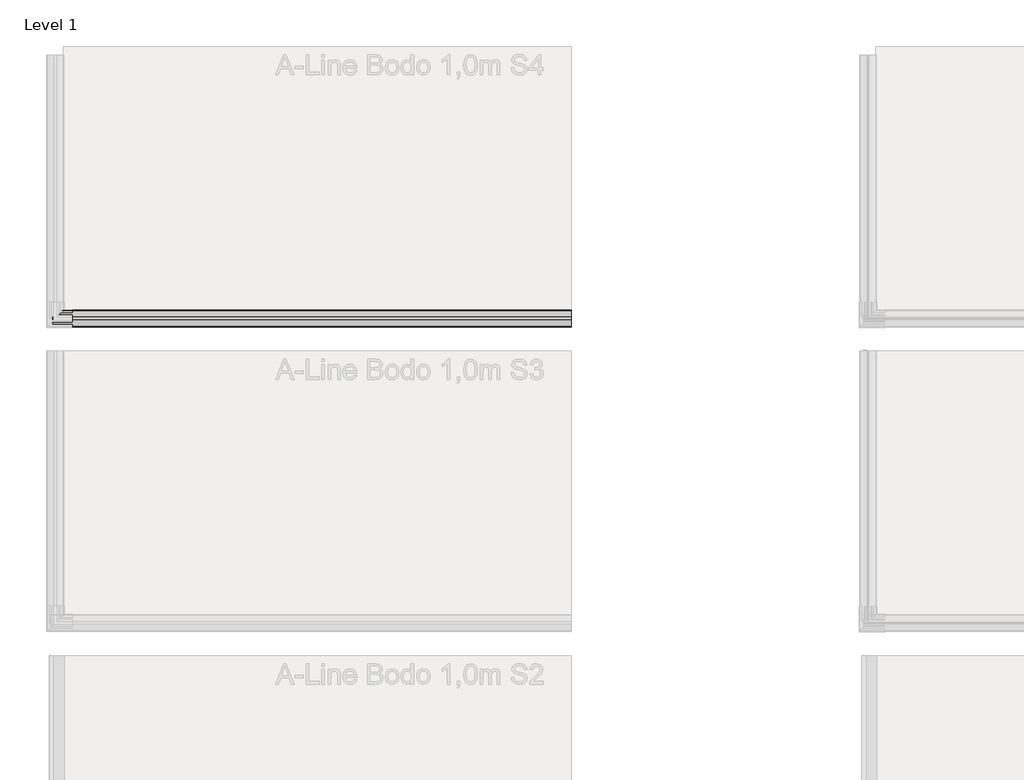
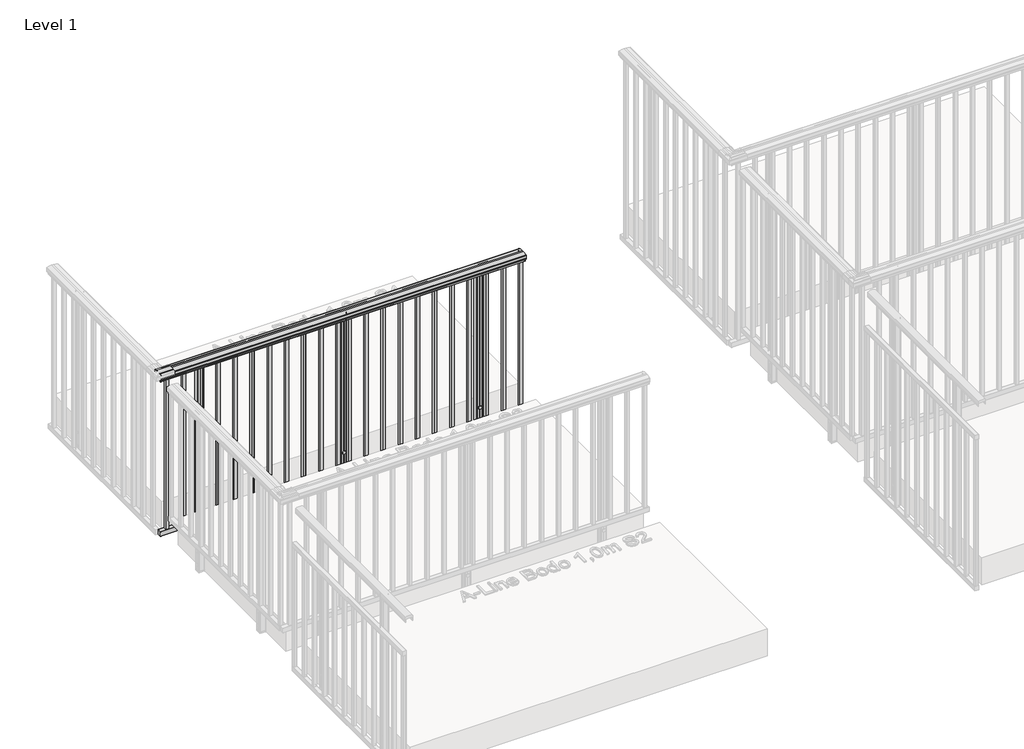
# One storey, part 11 of 66: 1 railing.
"""IFC4 building model written with IfcOpenShell, lengths in millimetres."""

from ifc_helpers import new_model, si_unit, point, frame, frame_2d, origin, place, context, project, spatial, polyline, circle_curve, trimmed, segment, composite_curve, outline, extrude, element, save

model = new_model("IFC4")

# Units and contexts
model_context = context("Model", 3, world=origin())
ifc_project = project(units=[si_unit("LENGTHUNIT", "METRE", prefix="MILLI")], contexts=[model_context])

# Site, building, storey
site = spatial("IfcSite", under=ifc_project)
building = spatial("IfcBuilding", under=site)
storey = spatial("IfcBuildingStorey", under=building, Name="Level 1", Elevation=0.0)

# Railing
placement = place(None, origin())
element("IfcRailing", 1, ObjectType="A-Line Bodo 1,0m S4", at=placement, inside=storey, context=model_context, shape_type="SweptSolid", body=[
    extrude(outline(composite_curve([segment(polyline([(-13150.7565959, 970.6825033), (-13150.7565959, 991.2139911)]), True, "CONTINUOUS"), segment(trimmed(circle_curve(frame_2d((-13147.7565959, 991.2139911)), 3.0), [point((-13150.7565959, 991.2139911))], [point((-13148.8230873, 994.0180233))], False, "CARTESIAN"), True, "CONTINUOUS"), segment(trimmed(circle_curve(frame_2d((-13116.2565959, 908.3938053)), 91.6083133), [point((-13148.8230873, 994.0180233))], [point((-13116.2565959, 1000.0021186))], False, "CARTESIAN"), True, "CONTINUOUS"), segment(polyline([(-13116.2565959, 1000.0021186), (-13103.2565959, 1000.0021186)]), True, "CONTINUOUS"), segment(trimmed(circle_curve(frame_2d((-13103.2565959, 908.3938053)), 91.6083133), [point((-13103.2565959, 1000.0021186))], [point((-13070.6901046, 994.0180233))], False, "CARTESIAN"), True, "CONTINUOUS"), segment(trimmed(circle_curve(frame_2d((-13071.7565959, 991.2139911)), 3.0), [point((-13070.6901046, 994.0180233))], [point((-13068.7565959, 991.2139911))], False, "CARTESIAN"), True, "CONTINUOUS"), segment(polyline([(-13068.7565959, 991.2139911), (-13068.7967883, 970.5325033), (-13069.4115714, 969.9177203), (-13068.7565959, 969.2627449), (-13068.7565959, 965.5021186)]), True, "CONTINUOUS"), segment(trimmed(circle_curve(frame_2d((-13069.2565959, 965.5021186)), 0.5), [point((-13068.7565959, 965.5021186))], [point((-13069.2565959, 965.0021186))], False, "CARTESIAN"), True, "CONTINUOUS"), segment(polyline([(-13069.2565959, 965.0021186), (-13070.2565959, 965.0021186), (-13070.2565959, 979.5021186)]), True, "CONTINUOUS"), segment(trimmed(circle_curve(frame_2d((-13070.7565959, 979.5021186)), 0.5), [point((-13070.2565959, 979.5021186))], [point((-13070.7565959, 980.0021186))], True, "CARTESIAN"), True, "CONTINUOUS"), segment(polyline([(-13070.7565959, 980.0021186), (-13148.7565959, 980.0021186)]), True, "CONTINUOUS"), segment(trimmed(circle_curve(frame_2d((-13148.7565959, 979.5021186)), 0.5), [point((-13148.7565959, 980.0021186))], [point((-13149.2565959, 979.5021186))], True, "CARTESIAN"), True, "CONTINUOUS"), segment(polyline([(-13149.2565959, 979.5021186), (-13149.2565959, 965.0021186), (-13150.2565959, 965.0021186)]), True, "CONTINUOUS"), segment(trimmed(circle_curve(frame_2d((-13150.2565959, 965.5021186)), 0.5), [point((-13150.2565959, 965.0021186))], [point((-13150.7565959, 965.5021186))], False, "CARTESIAN"), True, "CONTINUOUS"), segment(polyline([(-13150.7565959, 965.5021186), (-13150.7164036, 969.4717338), (-13150.131115, 970.0570224), (-13150.7565959, 970.6825033)]), True, "CONTINUOUS")], self_intersect=False)), frame((4454.0547322, 0.0, 0.0), z_axis=(1.0, 0.0, 0.0), x_axis=(0.0, 1.0, 0.0)), (0.0, 0.0, 1.0), 2550.0),
    extrude(outline(composite_curve([segment(trimmed(circle_curve(frame_2d((-13139.305892, 977.0)), 1.0), [point((-13140.305892, 977.0))], [point((-13139.305892, 978.0))], False, "CARTESIAN"), True, "CONTINUOUS"), segment(polyline([(-13139.305892, 978.0), (-13112.205892, 978.0)]), True, "CONTINUOUS"), segment(trimmed(circle_curve(frame_2d((-13112.205892, 977.0)), 1.0), [point((-13112.205892, 978.0))], [point((-13111.205892, 977.0))], False, "CARTESIAN"), True, "CONTINUOUS"), segment(polyline([(-13111.205892, 977.0), (-13111.205892, 944.8)]), True, "CONTINUOUS"), segment(trimmed(circle_curve(frame_2d((-13112.205892, 944.8)), 1.0), [point((-13111.205892, 944.8))], [point((-13112.205892, 943.8))], False, "CARTESIAN"), True, "CONTINUOUS"), segment(polyline([(-13112.205892, 943.8), (-13139.305892, 943.8)]), True, "CONTINUOUS"), segment(trimmed(circle_curve(frame_2d((-13139.305892, 944.8)), 1.0), [point((-13139.305892, 943.8))], [point((-13140.305892, 944.8))], False, "CARTESIAN"), True, "CONTINUOUS"), segment(polyline([(-13140.305892, 944.8), (-13140.305892, 977.0)]), True, "CONTINUOUS")], self_intersect=False)), frame((4454.0547322, 0.0, 0.0), z_axis=(1.0, 0.0, 0.0), x_axis=(0.0, 1.0, 0.0)), (0.0, 0.0, 1.0), 2550.0),
    extrude(outline(composite_curve([segment(polyline([(-13139.305892, -165.8), (-13112.205892, -165.8)]), True, "CONTINUOUS"), segment(trimmed(circle_curve(frame_2d((-13112.205892, -166.8)), 1.0), [point((-13112.205892, -165.8))], [point((-13111.205892, -166.8))], False, "CARTESIAN"), True, "CONTINUOUS"), segment(polyline([(-13111.205892, -166.8), (-13111.205892, -199.0)]), True, "CONTINUOUS"), segment(trimmed(circle_curve(frame_2d((-13112.205892, -199.0)), 1.0), [point((-13111.205892, -199.0))], [point((-13112.205892, -200.0))], False, "CARTESIAN"), True, "CONTINUOUS"), segment(polyline([(-13112.205892, -200.0), (-13139.305892, -200.0)]), True, "CONTINUOUS"), segment(trimmed(circle_curve(frame_2d((-13139.305892, -199.0)), 1.0), [point((-13139.305892, -200.0))], [point((-13140.305892, -199.0))], False, "CARTESIAN"), True, "CONTINUOUS"), segment(polyline([(-13140.305892, -199.0), (-13140.305892, -166.8)]), True, "CONTINUOUS"), segment(trimmed(circle_curve(frame_2d((-13139.305892, -166.8)), 1.0), [point((-13140.305892, -166.8))], [point((-13139.305892, -165.8))], False, "CARTESIAN"), True, "CONTINUOUS")], self_intersect=False)), frame((4454.0547322, 0.0, 0.0), z_axis=(1.0, 0.0, 0.0), x_axis=(0.0, 1.0, 0.0)), (0.0, 0.0, 1.0), 2550.0),
    extrude(outline(polyline([(6969.0547322, -13135.755892), (6969.0547322, -13115.755892), (6989.0547322, -13115.755892), (6989.0547322, -13135.755892), (6969.0547322, -13135.755892)]), holes=[polyline([(6971.0547322, -13133.755892), (6987.0547322, -13133.755892), (6987.0547322, -13117.755892), (6971.0547322, -13117.755892), (6971.0547322, -13133.755892)])]), frame((0.0, 0.0, -166.0), z_axis=(0.0, 0.0, 1.0), x_axis=(1.0, 0.0, 0.0)), (0.0, 0.0, 1.0), 1110.0),
    extrude(outline(polyline([(6849.0547322, -13135.755892), (6849.0547322, -13115.755892), (6869.0547322, -13115.755892), (6869.0547322, -13135.755892), (6849.0547322, -13135.755892)]), holes=[polyline([(6851.0547322, -13133.755892), (6867.0547322, -13133.755892), (6867.0547322, -13117.755892), (6851.0547322, -13117.755892), (6851.0547322, -13133.755892)])]), frame((0.0, 0.0, -166.0), z_axis=(0.0, 0.0, 1.0), x_axis=(1.0, 0.0, 0.0)), (0.0, 0.0, 1.0), 1110.0),
    extrude(outline(polyline([(6729.0547322, -13135.755892), (6729.0547322, -13115.755892), (6749.0547322, -13115.755892), (6749.0547322, -13135.755892), (6729.0547322, -13135.755892)]), holes=[polyline([(6731.0547322, -13133.755892), (6747.0547322, -13133.755892), (6747.0547322, -13117.755892), (6731.0547322, -13117.755892), (6731.0547322, -13133.755892)])]), frame((0.0, 0.0, -166.0), z_axis=(0.0, 0.0, 1.0), x_axis=(1.0, 0.0, 0.0)), (0.0, 0.0, 1.0), 1110.0),
    extrude(outline(polyline([(6609.0547322, -13135.755892), (6609.0547322, -13115.755892), (6629.0547322, -13115.755892), (6629.0547322, -13135.755892), (6609.0547322, -13135.755892)]), holes=[polyline([(6611.0547322, -13133.755892), (6627.0547322, -13133.755892), (6627.0547322, -13117.755892), (6611.0547322, -13117.755892), (6611.0547322, -13133.755892)])]), frame((0.0, 0.0, -166.0), z_axis=(0.0, 0.0, 1.0), x_axis=(1.0, 0.0, 0.0)), (0.0, 0.0, 1.0), 1110.0),
    extrude(outline(polyline([(6489.0547322, -13135.755892), (6489.0547322, -13115.755892), (6509.0547322, -13115.755892), (6509.0547322, -13135.755892), (6489.0547322, -13135.755892)]), holes=[polyline([(6491.0547322, -13133.755892), (6507.0547322, -13133.755892), (6507.0547322, -13117.755892), (6491.0547322, -13117.755892), (6491.0547322, -13133.755892)])]), frame((0.0, 0.0, -166.0), z_axis=(0.0, 0.0, 1.0), x_axis=(1.0, 0.0, 0.0)), (0.0, 0.0, 1.0), 1110.0),
    extrude(outline(polyline([(6369.0547322, -13135.755892), (6369.0547322, -13115.755892), (6389.0547322, -13115.755892), (6389.0547322, -13135.755892), (6369.0547322, -13135.755892)]), holes=[polyline([(6371.0547322, -13133.755892), (6387.0547322, -13133.755892), (6387.0547322, -13117.755892), (6371.0547322, -13117.755892), (6371.0547322, -13133.755892)])]), frame((0.0, 0.0, -166.0), z_axis=(0.0, 0.0, 1.0), x_axis=(1.0, 0.0, 0.0)), (0.0, 0.0, 1.0), 1110.0),
    extrude(outline(polyline([(6249.0547322, -13135.755892), (6249.0547322, -13115.755892), (6269.0547322, -13115.755892), (6269.0547322, -13135.755892), (6249.0547322, -13135.755892)]), holes=[polyline([(6251.0547322, -13133.755892), (6267.0547322, -13133.755892), (6267.0547322, -13117.755892), (6251.0547322, -13117.755892), (6251.0547322, -13133.755892)])]), frame((0.0, 0.0, -166.0), z_axis=(0.0, 0.0, 1.0), x_axis=(1.0, 0.0, 0.0)), (0.0, 0.0, 1.0), 1110.0),
    extrude(outline(polyline([(6129.0547322, -13135.755892), (6129.0547322, -13115.755892), (6149.0547322, -13115.755892), (6149.0547322, -13135.755892), (6129.0547322, -13135.755892)]), holes=[polyline([(6131.0547322, -13133.755892), (6147.0547322, -13133.755892), (6147.0547322, -13117.755892), (6131.0547322, -13117.755892), (6131.0547322, -13133.755892)])]), frame((0.0, 0.0, -166.0), z_axis=(0.0, 0.0, 1.0), x_axis=(1.0, 0.0, 0.0)), (0.0, 0.0, 1.0), 1110.0),
    extrude(outline(polyline([(6009.0547322, -13135.755892), (6009.0547322, -13115.755892), (6029.0547322, -13115.755892), (6029.0547322, -13135.755892), (6009.0547322, -13135.755892)]), holes=[polyline([(6011.0547322, -13133.755892), (6027.0547322, -13133.755892), (6027.0547322, -13117.755892), (6011.0547322, -13117.755892), (6011.0547322, -13133.755892)])]), frame((0.0, 0.0, -166.0), z_axis=(0.0, 0.0, 1.0), x_axis=(1.0, 0.0, 0.0)), (0.0, 0.0, 1.0), 1110.0),
    extrude(outline(polyline([(5889.0547322, -13135.755892), (5889.0547322, -13115.755892), (5909.0547322, -13115.755892), (5909.0547322, -13135.755892), (5889.0547322, -13135.755892)]), holes=[polyline([(5891.0547322, -13133.755892), (5907.0547322, -13133.755892), (5907.0547322, -13117.755892), (5891.0547322, -13117.755892), (5891.0547322, -13133.755892)])]), frame((0.0, 0.0, -166.0), z_axis=(0.0, 0.0, 1.0), x_axis=(1.0, 0.0, 0.0)), (0.0, 0.0, 1.0), 1110.0),
    extrude(outline(polyline([(5769.0547322, -13135.755892), (5769.0547322, -13115.755892), (5789.0547322, -13115.755892), (5789.0547322, -13135.755892), (5769.0547322, -13135.755892)]), holes=[polyline([(5771.0547322, -13133.755892), (5787.0547322, -13133.755892), (5787.0547322, -13117.755892), (5771.0547322, -13117.755892), (5771.0547322, -13133.755892)])]), frame((0.0, 0.0, -166.0), z_axis=(0.0, 0.0, 1.0), x_axis=(1.0, 0.0, 0.0)), (0.0, 0.0, 1.0), 1110.0),
    extrude(outline(polyline([(5694.0547322, -13135.755892), (5694.0547322, -13115.755892), (5714.0547322, -13115.755892), (5714.0547322, -13135.755892), (5694.0547322, -13135.755892)]), holes=[polyline([(5696.0547322, -13133.755892), (5712.0547322, -13133.755892), (5712.0547322, -13117.755892), (5696.0547322, -13117.755892), (5696.0547322, -13133.755892)])]), frame((0.0, 0.0, -166.0), z_axis=(0.0, 0.0, 1.0), x_axis=(1.0, 0.0, 0.0)), (0.0, 0.0, 1.0), 1110.0),
    extrude(outline(polyline([(5574.0547322, -13135.755892), (5574.0547322, -13115.755892), (5594.0547322, -13115.755892), (5594.0547322, -13135.755892), (5574.0547322, -13135.755892)]), holes=[polyline([(5576.0547322, -13133.755892), (5592.0547322, -13133.755892), (5592.0547322, -13117.755892), (5576.0547322, -13117.755892), (5576.0547322, -13133.755892)])]), frame((0.0, 0.0, -166.0), z_axis=(0.0, 0.0, 1.0), x_axis=(1.0, 0.0, 0.0)), (0.0, 0.0, 1.0), 1110.0),
    extrude(outline(polyline([(5454.0547322, -13135.755892), (5454.0547322, -13115.755892), (5474.0547322, -13115.755892), (5474.0547322, -13135.755892), (5454.0547322, -13135.755892)]), holes=[polyline([(5456.0547322, -13133.755892), (5472.0547322, -13133.755892), (5472.0547322, -13117.755892), (5456.0547322, -13117.755892), (5456.0547322, -13133.755892)])]), frame((0.0, 0.0, -166.0), z_axis=(0.0, 0.0, 1.0), x_axis=(1.0, 0.0, 0.0)), (0.0, 0.0, 1.0), 1110.0),
    extrude(outline(polyline([(5334.0547322, -13135.755892), (5334.0547322, -13115.755892), (5354.0547322, -13115.755892), (5354.0547322, -13135.755892), (5334.0547322, -13135.755892)]), holes=[polyline([(5336.0547322, -13133.755892), (5352.0547322, -13133.755892), (5352.0547322, -13117.755892), (5336.0547322, -13117.755892), (5336.0547322, -13133.755892)])]), frame((0.0, 0.0, -166.0), z_axis=(0.0, 0.0, 1.0), x_axis=(1.0, 0.0, 0.0)), (0.0, 0.0, 1.0), 1110.0),
    extrude(outline(polyline([(5214.0547322, -13135.755892), (5214.0547322, -13115.755892), (5234.0547322, -13115.755892), (5234.0547322, -13135.755892), (5214.0547322, -13135.755892)]), holes=[polyline([(5216.0547322, -13133.755892), (5232.0547322, -13133.755892), (5232.0547322, -13117.755892), (5216.0547322, -13117.755892), (5216.0547322, -13133.755892)])]), frame((0.0, 0.0, -166.0), z_axis=(0.0, 0.0, 1.0), x_axis=(1.0, 0.0, 0.0)), (0.0, 0.0, 1.0), 1110.0),
    extrude(outline(polyline([(5094.0547322, -13135.755892), (5094.0547322, -13115.755892), (5114.0547322, -13115.755892), (5114.0547322, -13135.755892), (5094.0547322, -13135.755892)]), holes=[polyline([(5096.0547322, -13133.755892), (5112.0547322, -13133.755892), (5112.0547322, -13117.755892), (5096.0547322, -13117.755892), (5096.0547322, -13133.755892)])]), frame((0.0, 0.0, -166.0), z_axis=(0.0, 0.0, 1.0), x_axis=(1.0, 0.0, 0.0)), (0.0, 0.0, 1.0), 1110.0),
    extrude(outline(polyline([(4974.0547322, -13135.755892), (4974.0547322, -13115.755892), (4994.0547322, -13115.755892), (4994.0547322, -13135.755892), (4974.0547322, -13135.755892)]), holes=[polyline([(4976.0547322, -13133.755892), (4992.0547322, -13133.755892), (4992.0547322, -13117.755892), (4976.0547322, -13117.755892), (4976.0547322, -13133.755892)])]), frame((0.0, 0.0, -166.0), z_axis=(0.0, 0.0, 1.0), x_axis=(1.0, 0.0, 0.0)), (0.0, 0.0, 1.0), 1110.0),
    extrude(outline(polyline([(4854.0547322, -13135.755892), (4854.0547322, -13115.755892), (4874.0547322, -13115.755892), (4874.0547322, -13135.755892), (4854.0547322, -13135.755892)]), holes=[polyline([(4856.0547322, -13133.755892), (4872.0547322, -13133.755892), (4872.0547322, -13117.755892), (4856.0547322, -13117.755892), (4856.0547322, -13133.755892)])]), frame((0.0, 0.0, -166.0), z_axis=(0.0, 0.0, 1.0), x_axis=(1.0, 0.0, 0.0)), (0.0, 0.0, 1.0), 1110.0),
    extrude(outline(polyline([(4734.0547322, -13135.755892), (4734.0547322, -13115.755892), (4754.0547322, -13115.755892), (4754.0547322, -13135.755892), (4734.0547322, -13135.755892)]), holes=[polyline([(4736.0547322, -13133.755892), (4752.0547322, -13133.755892), (4752.0547322, -13117.755892), (4736.0547322, -13117.755892), (4736.0547322, -13133.755892)])]), frame((0.0, 0.0, -166.0), z_axis=(0.0, 0.0, 1.0), x_axis=(1.0, 0.0, 0.0)), (0.0, 0.0, 1.0), 1110.0),
    extrude(outline(polyline([(4614.0547322, -13135.755892), (4614.0547322, -13115.755892), (4634.0547322, -13115.755892), (4634.0547322, -13135.755892), (4614.0547322, -13135.755892)]), holes=[polyline([(4616.0547322, -13133.755892), (4632.0547322, -13133.755892), (4632.0547322, -13117.755892), (4616.0547322, -13117.755892), (4616.0547322, -13133.755892)])]), frame((0.0, 0.0, -166.0), z_axis=(0.0, 0.0, 1.0), x_axis=(1.0, 0.0, 0.0)), (0.0, 0.0, 1.0), 1110.0),
    extrude(outline(polyline([(4494.0547322, -13135.755892), (4494.0547322, -13115.755892), (4514.0547322, -13115.755892), (4514.0547322, -13135.755892), (4494.0547322, -13135.755892)]), holes=[polyline([(4496.0547322, -13133.755892), (4512.0547322, -13133.755892), (4512.0547322, -13117.755892), (4496.0547322, -13117.755892), (4496.0547322, -13133.755892)])]), frame((0.0, 0.0, -166.0), z_axis=(0.0, 0.0, 1.0), x_axis=(1.0, 0.0, 0.0)), (0.0, 0.0, 1.0), 1110.0),
    extrude(outline(composite_curve([segment(polyline([(5754.8575193, -13070.755892), (5771.8808192, -13070.755892)]), True, "CONTINUOUS"), segment(trimmed(circle_curve(frame_2d((5771.8808192, -13072.9298051)), 2.173913), [point((5771.8808192, -13070.755892))], [point((5774.0547322, -13072.9298051))], False, "CARTESIAN"), True, "CONTINUOUS"), segment(polyline([(5774.0547322, -13072.9298051), (5774.0547322, -13108.581979)]), True, "CONTINUOUS"), segment(trimmed(circle_curve(frame_2d((5771.8808192, -13108.581979)), 2.173913), [point((5774.0547322, -13108.581979))], [point((5771.8808192, -13110.755892))], False, "CARTESIAN"), True, "CONTINUOUS"), segment(polyline([(5771.8808192, -13110.755892), (5754.8225694, -13110.7209421), (5754.0547322, -13109.953105), (5753.2868951, -13110.7209421), (5736.2286453, -13110.755892)]), True, "CONTINUOUS"), segment(trimmed(circle_curve(frame_2d((5736.2286453, -13108.581979)), 2.173913), [point((5736.2286453, -13110.755892))], [point((5734.0547322, -13108.581979))], False, "CARTESIAN"), True, "CONTINUOUS"), segment(polyline([(5734.0547322, -13108.581979), (5734.0547322, -13072.9298051)]), True, "CONTINUOUS"), segment(trimmed(circle_curve(frame_2d((5736.2286453, -13072.9298051)), 2.173913), [point((5734.0547322, -13072.9298051))], [point((5736.2286452, -13070.755892))], False, "CARTESIAN"), True, "CONTINUOUS"), segment(polyline([(5736.2286452, -13070.755892), (5753.2868951, -13070.7908419), (5754.0547322, -13071.5586791), (5754.8575193, -13070.755892)]), True, "CONTINUOUS")], self_intersect=False)), frame((0.0, 0.0, -200.0), z_axis=(0.0, 0.0, 1.0), x_axis=(1.0, 0.0, 0.0)), (0.0, 0.0, 1.0), 10.0),
    extrude(outline(composite_curve([segment(trimmed(circle_curve(frame_2d((5736.2286453, -13072.9298051)), 2.173913), [point((5734.0547322, -13072.9298051))], [point((5736.2286453, -13070.755892))], False, "CARTESIAN"), True, "CONTINUOUS"), segment(polyline([(5736.2286453, -13070.755892), (5753.2868951, -13070.7908419), (5754.185167, -13071.1588463), (5754.9530042, -13070.755892), (5771.8808192, -13070.755892)]), True, "CONTINUOUS"), segment(trimmed(circle_curve(frame_2d((5771.8808192, -13072.9298051)), 2.173913), [point((5771.8808192, -13070.755892))], [point((5774.0547322, -13072.9298051))], False, "CARTESIAN"), True, "CONTINUOUS"), segment(polyline([(5774.0547322, -13072.9298051), (5774.0547322, -13108.581979)]), True, "CONTINUOUS"), segment(trimmed(circle_curve(frame_2d((5771.8808192, -13108.581979)), 2.173913), [point((5774.0547322, -13108.581979))], [point((5771.8808192, -13110.755892))], False, "CARTESIAN"), True, "CONTINUOUS"), segment(polyline([(5771.8808192, -13110.755892), (5754.8225694, -13110.7209421), (5754.0547322, -13109.953105), (5753.2868951, -13110.7209421), (5736.2286453, -13110.755892)]), True, "CONTINUOUS"), segment(trimmed(circle_curve(frame_2d((5736.2286453, -13108.581979)), 2.173913), [point((5736.2286453, -13110.755892))], [point((5734.0547322, -13108.581979))], False, "CARTESIAN"), True, "CONTINUOUS"), segment(polyline([(5734.0547322, -13108.581979), (5734.0547322, -13072.9298051)]), True, "CONTINUOUS")], self_intersect=False), holes=[composite_curve([segment(polyline([(5737.5329931, -13075.1037181), (5737.5329931, -13106.4080659)]), True, "CONTINUOUS"), segment(trimmed(circle_curve(frame_2d((5738.4025583, -13106.4080659)), 0.8695652), [point((5737.5329931, -13106.4080659))], [point((5738.4025583, -13107.2776312))], True, "CARTESIAN"), True, "CONTINUOUS"), segment(polyline([(5738.4025583, -13107.2776312), (5769.7069062, -13107.2776312)]), True, "CONTINUOUS"), segment(trimmed(circle_curve(frame_2d((5769.7069062, -13106.4080659)), 0.8695652), [point((5769.7069062, -13107.2776312))], [point((5770.5764714, -13106.4080659))], True, "CARTESIAN"), True, "CONTINUOUS"), segment(polyline([(5770.5764714, -13106.4080659), (5770.5764714, -13075.1037181)]), True, "CONTINUOUS"), segment(trimmed(circle_curve(frame_2d((5769.7069062, -13075.1037181)), 0.8695652), [point((5770.5764714, -13075.1037181))], [point((5769.7069062, -13074.2341529))], True, "CARTESIAN"), True, "CONTINUOUS"), segment(polyline([(5769.7069062, -13074.2341529), (5738.4025583, -13074.2341529)]), True, "CONTINUOUS"), segment(trimmed(circle_curve(frame_2d((5738.4025583, -13075.1037181)), 0.8695652), [point((5738.4025583, -13074.2341529))], [point((5737.5329931, -13075.1037181))], True, "CARTESIAN"), True, "CONTINUOUS")], self_intersect=False)]), frame((0.0, 0.0, -190.0), z_axis=(0.0, 0.0, 1.0), x_axis=(1.0, 0.0, 0.0)), (0.0, 0.0, 1.0), 1170.0),
    extrude(outline(composite_curve([segment(trimmed(circle_curve(frame_2d((0.0, 12.0)), 12.0), [point((0.0, 23.9999999))], [point((0.0, 0.0))], False, "CARTESIAN"), True, "CONTINUOUS"), segment(trimmed(circle_curve(frame_2d((0.0, 12.0)), 12.0), [point((0.0, 0.0))], [point((0.0, 23.9999999))], False, "CARTESIAN"), True, "CONTINUOUS")], self_intersect=False)), frame((5742.0444554, -13113.8197212, -151.0), z_axis=(0.0004029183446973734, 0.9999999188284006, 0.0), x_axis=(0.0, 0.0, 1.0)), (0.0, 0.0, 1.0), 3.0757477),
    extrude(outline(composite_curve([segment(trimmed(circle_curve(frame_2d((0.0, 12.0)), 12.0), [point((0.0, 23.9999999))], [point((0.0, 0.0))], False, "CARTESIAN"), True, "CONTINUOUS"), segment(trimmed(circle_curve(frame_2d((0.0, 12.0)), 12.0), [point((0.0, 0.0))], [point((0.0, 23.9999999))], False, "CARTESIAN"), True, "CONTINUOUS")], self_intersect=False)), frame((5742.0444554, -13113.8197212, -50.0), z_axis=(0.0004029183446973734, 0.9999999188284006, 0.0), x_axis=(0.0, 0.0, 1.0)), (0.0, 0.0, 1.0), 3.0757477),
    extrude(outline(composite_curve([segment(polyline([(6704.8575193, -13070.755892), (6721.8808192, -13070.755892)]), True, "CONTINUOUS"), segment(trimmed(circle_curve(frame_2d((6721.8808192, -13072.9298051)), 2.173913), [point((6721.8808192, -13070.755892))], [point((6724.0547322, -13072.9298051))], False, "CARTESIAN"), True, "CONTINUOUS"), segment(polyline([(6724.0547322, -13072.9298051), (6724.0547322, -13108.581979)]), True, "CONTINUOUS"), segment(trimmed(circle_curve(frame_2d((6721.8808192, -13108.581979)), 2.173913), [point((6724.0547322, -13108.581979))], [point((6721.8808192, -13110.755892))], False, "CARTESIAN"), True, "CONTINUOUS"), segment(polyline([(6721.8808192, -13110.755892), (6704.8225694, -13110.7209421), (6704.0547322, -13109.953105), (6703.2868951, -13110.7209421), (6686.2286453, -13110.755892)]), True, "CONTINUOUS"), segment(trimmed(circle_curve(frame_2d((6686.2286453, -13108.581979)), 2.173913), [point((6686.2286453, -13110.755892))], [point((6684.0547322, -13108.581979))], False, "CARTESIAN"), True, "CONTINUOUS"), segment(polyline([(6684.0547322, -13108.581979), (6684.0547322, -13072.9298051)]), True, "CONTINUOUS"), segment(trimmed(circle_curve(frame_2d((6686.2286453, -13072.9298051)), 2.173913), [point((6684.0547322, -13072.9298051))], [point((6686.2286452, -13070.755892))], False, "CARTESIAN"), True, "CONTINUOUS"), segment(polyline([(6686.2286452, -13070.755892), (6703.2868951, -13070.7908419), (6704.0547322, -13071.5586791), (6704.8575193, -13070.755892)]), True, "CONTINUOUS")], self_intersect=False)), frame((0.0, 0.0, -200.0), z_axis=(0.0, 0.0, 1.0), x_axis=(1.0, 0.0, 0.0)), (0.0, 0.0, 1.0), 10.0),
    extrude(outline(composite_curve([segment(trimmed(circle_curve(frame_2d((6686.2286453, -13072.9298051)), 2.173913), [point((6684.0547322, -13072.9298051))], [point((6686.2286453, -13070.755892))], False, "CARTESIAN"), True, "CONTINUOUS"), segment(polyline([(6686.2286453, -13070.755892), (6703.2868951, -13070.7908419), (6704.185167, -13071.1588463), (6704.9530042, -13070.755892), (6721.8808192, -13070.755892)]), True, "CONTINUOUS"), segment(trimmed(circle_curve(frame_2d((6721.8808192, -13072.9298051)), 2.173913), [point((6721.8808192, -13070.755892))], [point((6724.0547322, -13072.9298051))], False, "CARTESIAN"), True, "CONTINUOUS"), segment(polyline([(6724.0547322, -13072.9298051), (6724.0547322, -13108.581979)]), True, "CONTINUOUS"), segment(trimmed(circle_curve(frame_2d((6721.8808192, -13108.581979)), 2.173913), [point((6724.0547322, -13108.581979))], [point((6721.8808192, -13110.755892))], False, "CARTESIAN"), True, "CONTINUOUS"), segment(polyline([(6721.8808192, -13110.755892), (6704.8225694, -13110.7209421), (6704.0547322, -13109.953105), (6703.2868951, -13110.7209421), (6686.2286453, -13110.755892)]), True, "CONTINUOUS"), segment(trimmed(circle_curve(frame_2d((6686.2286453, -13108.581979)), 2.173913), [point((6686.2286453, -13110.755892))], [point((6684.0547322, -13108.581979))], False, "CARTESIAN"), True, "CONTINUOUS"), segment(polyline([(6684.0547322, -13108.581979), (6684.0547322, -13072.9298051)]), True, "CONTINUOUS")], self_intersect=False), holes=[composite_curve([segment(polyline([(6687.5329931, -13075.1037181), (6687.5329931, -13106.4080659)]), True, "CONTINUOUS"), segment(trimmed(circle_curve(frame_2d((6688.4025583, -13106.4080659)), 0.8695652), [point((6687.5329931, -13106.4080659))], [point((6688.4025583, -13107.2776312))], True, "CARTESIAN"), True, "CONTINUOUS"), segment(polyline([(6688.4025583, -13107.2776312), (6719.7069062, -13107.2776312)]), True, "CONTINUOUS"), segment(trimmed(circle_curve(frame_2d((6719.7069062, -13106.4080659)), 0.8695652), [point((6719.7069062, -13107.2776312))], [point((6720.5764714, -13106.4080659))], True, "CARTESIAN"), True, "CONTINUOUS"), segment(polyline([(6720.5764714, -13106.4080659), (6720.5764714, -13075.1037181)]), True, "CONTINUOUS"), segment(trimmed(circle_curve(frame_2d((6719.7069062, -13075.1037181)), 0.8695652), [point((6720.5764714, -13075.1037181))], [point((6719.7069062, -13074.2341529))], True, "CARTESIAN"), True, "CONTINUOUS"), segment(polyline([(6719.7069062, -13074.2341529), (6688.4025583, -13074.2341529)]), True, "CONTINUOUS"), segment(trimmed(circle_curve(frame_2d((6688.4025583, -13075.1037181)), 0.8695652), [point((6688.4025583, -13074.2341529))], [point((6687.5329931, -13075.1037181))], True, "CARTESIAN"), True, "CONTINUOUS")], self_intersect=False)]), frame((0.0, 0.0, -190.0), z_axis=(0.0, 0.0, 1.0), x_axis=(1.0, 0.0, 0.0)), (0.0, 0.0, 1.0), 1171.0),
    extrude(outline(composite_curve([segment(trimmed(circle_curve(frame_2d((0.0, 12.0)), 12.0), [point((0.0, 23.9999999))], [point((0.0, 0.0))], False, "CARTESIAN"), True, "CONTINUOUS"), segment(trimmed(circle_curve(frame_2d((0.0, 12.0)), 12.0), [point((0.0, 0.0))], [point((0.0, 23.9999999))], False, "CARTESIAN"), True, "CONTINUOUS")], self_intersect=False)), frame((6692.0444554, -13113.8197212, -151.0), z_axis=(0.00040291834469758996, 0.9999999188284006, 0.0), x_axis=(0.0, 0.0, 1.0)), (0.0, 0.0, 1.0), 3.0757477),
    extrude(outline(composite_curve([segment(trimmed(circle_curve(frame_2d((0.0, 12.0)), 12.0), [point((0.0, 23.9999999))], [point((0.0, 0.0))], False, "CARTESIAN"), True, "CONTINUOUS"), segment(trimmed(circle_curve(frame_2d((0.0, 12.0)), 12.0), [point((0.0, 0.0))], [point((0.0, 23.9999999))], False, "CARTESIAN"), True, "CONTINUOUS")], self_intersect=False)), frame((6692.0444554, -13113.8197212, -50.0), z_axis=(0.00040291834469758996, 0.9999999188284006, 0.0), x_axis=(0.0, 0.0, 1.0)), (0.0, 0.0, 1.0), 3.0757477),
    extrude(outline(composite_curve([segment(polyline([(4754.8575193, -13070.755892), (4771.8808192, -13070.755892)]), True, "CONTINUOUS"), segment(trimmed(circle_curve(frame_2d((4771.8808192, -13072.9298051)), 2.173913), [point((4771.8808192, -13070.755892))], [point((4774.0547322, -13072.9298051))], False, "CARTESIAN"), True, "CONTINUOUS"), segment(polyline([(4774.0547322, -13072.9298051), (4774.0547322, -13108.581979)]), True, "CONTINUOUS"), segment(trimmed(circle_curve(frame_2d((4771.8808192, -13108.581979)), 2.173913), [point((4774.0547322, -13108.581979))], [point((4771.8808192, -13110.755892))], False, "CARTESIAN"), True, "CONTINUOUS"), segment(polyline([(4771.8808192, -13110.755892), (4754.8225694, -13110.7209421), (4754.0547322, -13109.953105), (4753.2868951, -13110.7209421), (4736.2286453, -13110.755892)]), True, "CONTINUOUS"), segment(trimmed(circle_curve(frame_2d((4736.2286453, -13108.581979)), 2.173913), [point((4736.2286453, -13110.755892))], [point((4734.0547322, -13108.581979))], False, "CARTESIAN"), True, "CONTINUOUS"), segment(polyline([(4734.0547322, -13108.581979), (4734.0547322, -13072.9298051)]), True, "CONTINUOUS"), segment(trimmed(circle_curve(frame_2d((4736.2286453, -13072.9298051)), 2.173913), [point((4734.0547322, -13072.9298051))], [point((4736.2286452, -13070.755892))], False, "CARTESIAN"), True, "CONTINUOUS"), segment(polyline([(4736.2286452, -13070.755892), (4753.2868951, -13070.7908419), (4754.0547322, -13071.5586791), (4754.8575193, -13070.755892)]), True, "CONTINUOUS")], self_intersect=False)), frame((0.0, 0.0, -200.0), z_axis=(0.0, 0.0, 1.0), x_axis=(1.0, 0.0, 0.0)), (0.0, 0.0, 1.0), 10.0),
    extrude(outline(composite_curve([segment(trimmed(circle_curve(frame_2d((4736.2286453, -13072.9298051)), 2.173913), [point((4734.0547322, -13072.9298051))], [point((4736.2286453, -13070.755892))], False, "CARTESIAN"), True, "CONTINUOUS"), segment(polyline([(4736.2286453, -13070.755892), (4753.2868951, -13070.7908419), (4754.185167, -13071.1588463), (4754.9530042, -13070.755892), (4771.8808192, -13070.755892)]), True, "CONTINUOUS"), segment(trimmed(circle_curve(frame_2d((4771.8808192, -13072.9298051)), 2.173913), [point((4771.8808192, -13070.755892))], [point((4774.0547322, -13072.9298051))], False, "CARTESIAN"), True, "CONTINUOUS"), segment(polyline([(4774.0547322, -13072.9298051), (4774.0547322, -13108.581979)]), True, "CONTINUOUS"), segment(trimmed(circle_curve(frame_2d((4771.8808192, -13108.581979)), 2.173913), [point((4774.0547322, -13108.581979))], [point((4771.8808192, -13110.755892))], False, "CARTESIAN"), True, "CONTINUOUS"), segment(polyline([(4771.8808192, -13110.755892), (4754.8225694, -13110.7209421), (4754.0547322, -13109.953105), (4753.2868951, -13110.7209421), (4736.2286453, -13110.755892)]), True, "CONTINUOUS"), segment(trimmed(circle_curve(frame_2d((4736.2286453, -13108.581979)), 2.173913), [point((4736.2286453, -13110.755892))], [point((4734.0547322, -13108.581979))], False, "CARTESIAN"), True, "CONTINUOUS"), segment(polyline([(4734.0547322, -13108.581979), (4734.0547322, -13072.9298051)]), True, "CONTINUOUS")], self_intersect=False), holes=[composite_curve([segment(polyline([(4737.5329931, -13075.1037181), (4737.5329931, -13106.4080659)]), True, "CONTINUOUS"), segment(trimmed(circle_curve(frame_2d((4738.4025583, -13106.4080659)), 0.8695652), [point((4737.5329931, -13106.4080659))], [point((4738.4025583, -13107.2776312))], True, "CARTESIAN"), True, "CONTINUOUS"), segment(polyline([(4738.4025583, -13107.2776312), (4769.7069062, -13107.2776312)]), True, "CONTINUOUS"), segment(trimmed(circle_curve(frame_2d((4769.7069062, -13106.4080659)), 0.8695652), [point((4769.7069062, -13107.2776312))], [point((4770.5764714, -13106.4080659))], True, "CARTESIAN"), True, "CONTINUOUS"), segment(polyline([(4770.5764714, -13106.4080659), (4770.5764714, -13075.1037181)]), True, "CONTINUOUS"), segment(trimmed(circle_curve(frame_2d((4769.7069062, -13075.1037181)), 0.8695652), [point((4770.5764714, -13075.1037181))], [point((4769.7069062, -13074.2341529))], True, "CARTESIAN"), True, "CONTINUOUS"), segment(polyline([(4769.7069062, -13074.2341529), (4738.4025583, -13074.2341529)]), True, "CONTINUOUS"), segment(trimmed(circle_curve(frame_2d((4738.4025583, -13075.1037181)), 0.8695652), [point((4738.4025583, -13074.2341529))], [point((4737.5329931, -13075.1037181))], True, "CARTESIAN"), True, "CONTINUOUS")], self_intersect=False)]), frame((0.0, 0.0, -190.0), z_axis=(0.0, 0.0, 1.0), x_axis=(1.0, 0.0, 0.0)), (0.0, 0.0, 1.0), 1171.0),
    extrude(outline(composite_curve([segment(trimmed(circle_curve(frame_2d((0.0, 12.0)), 12.0), [point((0.0, 23.9999999))], [point((0.0, 0.0))], False, "CARTESIAN"), True, "CONTINUOUS"), segment(trimmed(circle_curve(frame_2d((0.0, 12.0)), 12.0), [point((0.0, 0.0))], [point((0.0, 23.9999999))], False, "CARTESIAN"), True, "CONTINUOUS")], self_intersect=False)), frame((4742.0444554, -13113.8197212, -151.0), z_axis=(0.0004029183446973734, 0.9999999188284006, 0.0), x_axis=(0.0, 0.0, 1.0)), (0.0, 0.0, 1.0), 3.0757477),
    extrude(outline(composite_curve([segment(trimmed(circle_curve(frame_2d((0.0, 12.0)), 12.0), [point((0.0, 23.9999999))], [point((0.0, 0.0))], False, "CARTESIAN"), True, "CONTINUOUS"), segment(trimmed(circle_curve(frame_2d((0.0, 12.0)), 12.0), [point((0.0, 0.0))], [point((0.0, 23.9999999))], False, "CARTESIAN"), True, "CONTINUOUS")], self_intersect=False)), frame((4742.0444554, -13113.8197212, -50.0), z_axis=(0.0004029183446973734, 0.9999999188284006, 0.0), x_axis=(0.0, 0.0, 1.0)), (0.0, 0.0, 1.0), 3.0757477),
])

save(model, "model.ifc")
